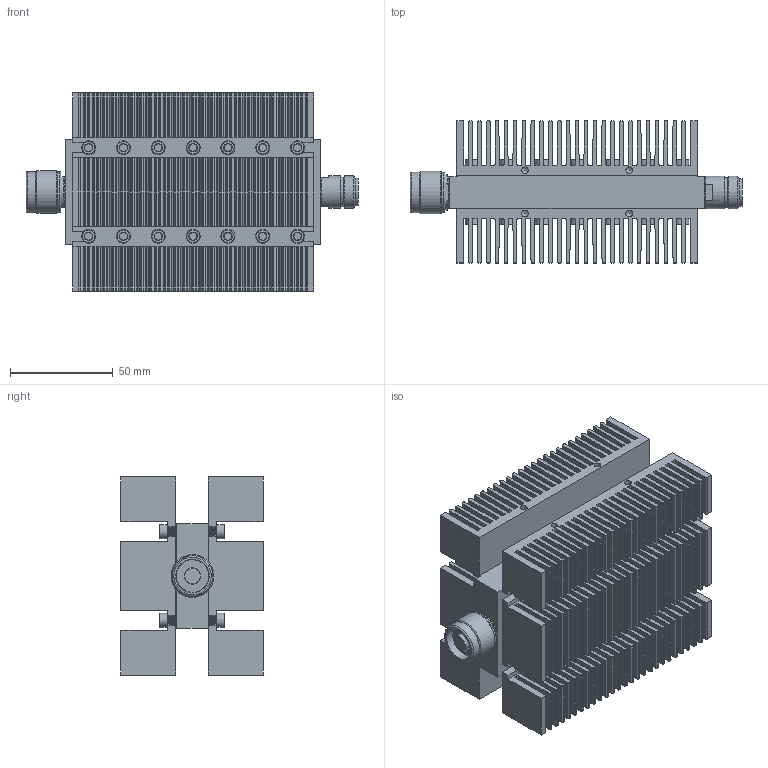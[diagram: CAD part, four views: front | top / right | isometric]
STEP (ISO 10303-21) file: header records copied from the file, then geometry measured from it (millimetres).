
FILE_DESCRIPTION(/* description */ ('Unknown'),/* implementation_level */ '2;1');
FILE_NAME(/* name */ '100-6A-MFN-XX',/* time_stamp */ '2023-01-09T15:53:34-05:00',/* author */ ('Unknown'),/* organization */ ('Unknown'),/* preprocessor_version */ 'ST-DEVELOPER v18.102',/* originating_system */ 'Solid Edge',/* authorisation */ 'Unknown');
FILE_SCHEMA (('AUTOMOTIVE_DESIGN {1 0 10303 214 3 1 1}'));
Products named in the file (1): 100-6A-MFN-XX
Bounding box: 161.74 x 69.34 x 96.52 mm (x, y, z)
Volume: 389093.6 mm3; surface area: 248124.6 mm2
Topology: 2 solids, 2 shells, 2360 faces, 6931 edges, 4632 vertices
Faces by surface type: plane 984, cylinder 845, cone 275, bspline 248, torus 8
Full cylindrical faces by diameter (mm): 2.972 x1, 3.3 x8, 3.454 x49, 5.961 x1, 5.991 x1, 6.858 x28, 7.112 x1, 8.001 x1, 8.433 x1, 11.43 x1, 13.518 x1, 14.559 x1, 14.859 x1, 15.875 x2, 15.905 x1, 16.127 x1, 17.424 x1, 17.702 x2, 18.642 x1, 19.835 x2, 20.877 x1
Entity records: 107389 total; most frequent: CARTESIAN_POINT 33752, ORIENTED_EDGE 13114, DIRECTION 10742, EDGE_CURVE 6557, VERTEX_POINT 4491, AXIS2_PLACEMENT_3D 3821, LINE 3100, VECTOR 3100
